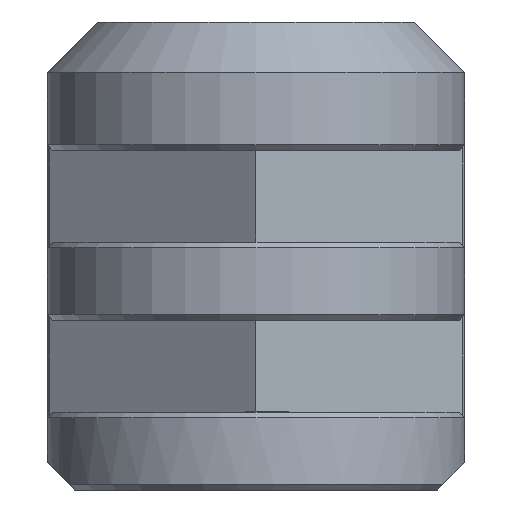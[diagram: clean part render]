
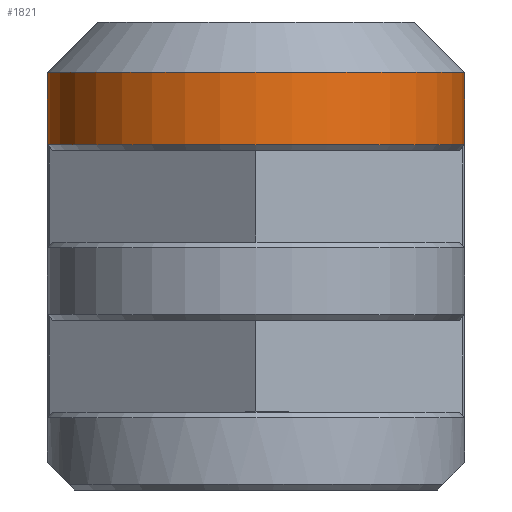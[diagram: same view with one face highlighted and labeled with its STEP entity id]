
A CAD part, left-side view. The second image highlights one B-rep face of the part: STEP entity #1821.
In plain terms, the highlighted cylindrical face has radius 7.5 mm (diameter 15 mm), a partial arc.
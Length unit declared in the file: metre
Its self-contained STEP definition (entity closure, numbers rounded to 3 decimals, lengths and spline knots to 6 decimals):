
#32=ELLIPSE('',#1950,0.010607,0.0075);
#33=ELLIPSE('',#1952,0.010607,0.0075);
#46=CIRCLE('',#1949,0.0075);
#47=CIRCLE('',#1951,0.0075);
#70=CYLINDRICAL_SURFACE('',#1948,0.0075);
#155=ORIENTED_EDGE('',*,*,#647,.T.);
#156=ORIENTED_EDGE('',*,*,#675,.T.);
#157=ORIENTED_EDGE('',*,*,#623,.F.);
#158=ORIENTED_EDGE('',*,*,#676,.T.);
#159=ORIENTED_EDGE('',*,*,#677,.T.);
#160=ORIENTED_EDGE('',*,*,#678,.T.);
#623=EDGE_CURVE('',#885,#886,#1052,.T.);
#647=EDGE_CURVE('',#910,#909,#1076,.T.);
#675=EDGE_CURVE('',#909,#886,#46,.F.);
#676=EDGE_CURVE('',#885,#933,#32,.F.);
#677=EDGE_CURVE('',#933,#934,#47,.F.);
#678=EDGE_CURVE('',#934,#910,#33,.T.);
#885=VERTEX_POINT('',#2621);
#886=VERTEX_POINT('',#2623);
#909=VERTEX_POINT('',#2670);
#910=VERTEX_POINT('',#2672);
#933=VERTEX_POINT('',#2730);
#934=VERTEX_POINT('',#2732);
#1052=LINE('',#2622,#1277);
#1076=LINE('',#2671,#1301);
#1277=VECTOR('',#2096,1.);
#1301=VECTOR('',#2122,1.);
#1494=EDGE_LOOP('',(#155,#156,#157,#158,#159,#160));
#1619=FACE_BOUND('',#1494,.T.);
#1821=ADVANCED_FACE('',(#1619),#70,.T.);
#1948=AXIS2_PLACEMENT_3D('',#2727,#2170,#2171);
#1949=AXIS2_PLACEMENT_3D('',#2728,#2172,#2173);
#1950=AXIS2_PLACEMENT_3D('',#2729,#2174,#2175);
#1951=AXIS2_PLACEMENT_3D('',#2731,#2176,#2177);
#1952=AXIS2_PLACEMENT_3D('',#2733,#2178,#2179);
#2096=DIRECTION('',(0.,0.,-1.));
#2122=DIRECTION('',(0.,0.,-1.));
#2170=DIRECTION('',(0.,0.,-1.));
#2171=DIRECTION('',(-1.,0.,0.));
#2172=DIRECTION('',(0.,0.,-1.));
#2173=DIRECTION('',(-1.,0.,0.));
#2174=DIRECTION('',(0.,0.707,-0.707));
#2175=DIRECTION('',(0.,-0.707,-0.707));
#2176=DIRECTION('',(0.,0.,1.));
#2177=DIRECTION('',(1.,0.,0.));
#2178=DIRECTION('',(0.,0.707,0.707));
#2179=DIRECTION('',(0.,0.707,-0.707));
#2621=CARTESIAN_POINT('',(-0.06,-0.0075,0.014));
#2622=CARTESIAN_POINT('',(-0.06,-0.0075,0.015));
#2623=CARTESIAN_POINT('',(-0.06,-0.0075,0.0124));
#2670=CARTESIAN_POINT('',(-0.06,0.0075,0.0124));
#2671=CARTESIAN_POINT('',(-0.06,0.0075,0.015));
#2672=CARTESIAN_POINT('',(-0.06,0.0075,0.014));
#2727=CARTESIAN_POINT('',(-0.06,0.,0.015));
#2728=CARTESIAN_POINT('',(-0.06,0.,0.0124));
#2729=CARTESIAN_POINT('',(-0.06,0.,0.0215));
#2730=CARTESIAN_POINT('',(-0.056258,-0.0065,0.015));
#2731=CARTESIAN_POINT('',(-0.06,0.,0.015));
#2732=CARTESIAN_POINT('',(-0.056258,0.0065,0.015));
#2733=CARTESIAN_POINT('',(-0.06,0.,0.0215));
